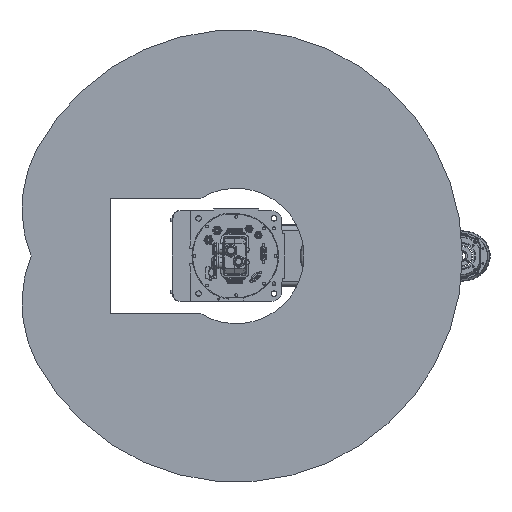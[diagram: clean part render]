
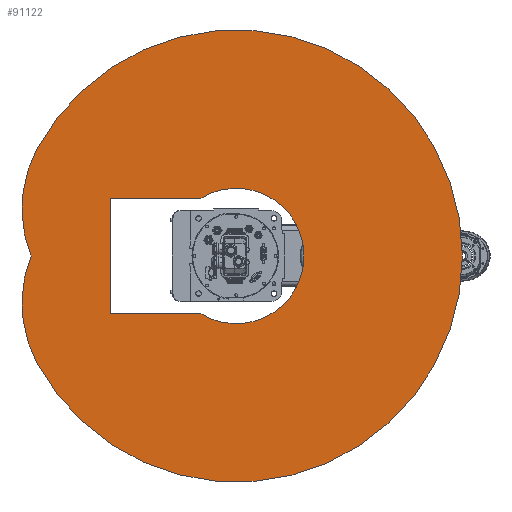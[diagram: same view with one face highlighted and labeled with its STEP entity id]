
A CAD part, front view. The second image highlights one B-rep face of the part: STEP entity #91122.
In plain terms, the highlighted planar face has unit normal (0, -1, 0).
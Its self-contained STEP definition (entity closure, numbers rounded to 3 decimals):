
#2370 = VERTEX_POINT ( 'NONE', #158434 ) ;
#2820 = CARTESIAN_POINT ( 'NONE',  ( 0., 0., 0. ) ) ;
#4275 = DIRECTION ( 'NONE',  ( 0., 1., 0. ) ) ;
#5259 = VECTOR ( 'NONE', #153530, 1000. ) ;
#5303 = CARTESIAN_POINT ( 'NONE',  ( -115., 0., 250. ) ) ;
#6139 = LINE ( 'NONE', #5303, #109820 ) ;
#6924 = AXIS2_PLACEMENT_3D ( 'NONE', #129043, #52920, #118769 ) ;
#8532 = CIRCLE ( 'NONE', #49675, 250. ) ;
#9674 = VERTEX_POINT ( 'NONE', #141880 ) ;
#13364 = DIRECTION ( 'NONE',  ( 1., 0., 0. ) ) ;
#17467 = CIRCLE ( 'NONE', #96697, 134.76 ) ;
#22671 = VERTEX_POINT ( 'NONE', #30373 ) ;
#25147 = ORIENTED_EDGE ( 'NONE', *, *, #75864, .F. ) ;
#25415 = DIRECTION ( 'NONE',  ( 0., 1., 0. ) ) ;
#27335 = EDGE_CURVE ( 'NONE', #22671, #152429, #105547, .T. ) ;
#30010 = DIRECTION ( 'NONE',  ( 1., 0., 0. ) ) ;
#30373 = CARTESIAN_POINT ( 'NONE',  ( 115., 0., 250. ) ) ;
#31054 = DIRECTION ( 'NONE',  ( 1., 0., 0. ) ) ;
#31696 = CARTESIAN_POINT ( 'NONE',  ( 0., 0., 0. ) ) ;
#33573 = CARTESIAN_POINT ( 'NONE',  ( 46.947, 0., 88.295 ) ) ;
#34035 = EDGE_CURVE ( 'NONE', #121136, #126770, #8532, .T. ) ;
#35544 = CIRCLE ( 'NONE', #43736, 134.76 ) ;
#36612 = CARTESIAN_POINT ( 'NONE',  ( 0., 0., -450. ) ) ;
#36910 = ORIENTED_EDGE ( 'NONE', *, *, #27335, .T. ) ;
#39215 = AXIS2_PLACEMENT_3D ( 'NONE', #2820, #78184, #132047 ) ;
#39706 = DIRECTION ( 'NONE',  ( 1., 0., 0. ) ) ;
#40809 = EDGE_LOOP ( 'NONE', ( #146854, #106379, #166323, #25147 ) ) ;
#42395 = VERTEX_POINT ( 'NONE', #100350 ) ;
#43736 = AXIS2_PLACEMENT_3D ( 'NONE', #31696, #4275, #30010 ) ;
#46229 = DIRECTION ( 'NONE',  ( 1., 0., 0. ) ) ;
#49675 = AXIS2_PLACEMENT_3D ( 'NONE', #124885, #163297, #46229 ) ;
#52920 = DIRECTION ( 'NONE',  ( 0., 1., 0. ) ) ;
#54770 = EDGE_CURVE ( 'NONE', #9674, #42395, #35544, .T. ) ;
#56056 = ORIENTED_EDGE ( 'NONE', *, *, #94611, .T. ) ;
#66968 = CARTESIAN_POINT ( 'NONE',  ( 115., 0., 250. ) ) ;
#74697 = CARTESIAN_POINT ( 'NONE',  ( 115., 0., 70.251 ) ) ;
#75864 = EDGE_CURVE ( 'NONE', #2370, #107344, #102873, .T. ) ;
#78184 = DIRECTION ( 'NONE',  ( 0., 1., 0. ) ) ;
#79856 = CARTESIAN_POINT ( 'NONE',  ( 0., 0., 0. ) ) ;
#83980 = VECTOR ( 'NONE', #119160, 1000. ) ;
#86919 = CARTESIAN_POINT ( 'NONE',  ( -115., 0., 250. ) ) ;
#89105 = ORIENTED_EDGE ( 'NONE', *, *, #54770, .T. ) ;
#91122 = ADVANCED_FACE ( 'NONE', ( #97729, #148113 ), #149787, .F. ) ;
#91963 = AXIS2_PLACEMENT_3D ( 'NONE', #79856, #147305, #39706 ) ;
#94611 = EDGE_CURVE ( 'NONE', #152429, #9674, #17467, .T. ) ;
#96697 = AXIS2_PLACEMENT_3D ( 'NONE', #130578, #25415, #13364 ) ;
#97729 = FACE_OUTER_BOUND ( 'NONE', #40809, .T. ) ;
#100350 = CARTESIAN_POINT ( 'NONE',  ( -115., 0., 70.251 ) ) ;
#101139 = AXIS2_PLACEMENT_3D ( 'NONE', #33573, #124222, #31054 ) ;
#102873 = CIRCLE ( 'NONE', #91963, 450. ) ;
#105547 = LINE ( 'NONE', #66968, #83980 ) ;
#105891 = EDGE_CURVE ( 'NONE', #126770, #2370, #110801, .T. ) ;
#106379 = ORIENTED_EDGE ( 'NONE', *, *, #34035, .F. ) ;
#107344 = VERTEX_POINT ( 'NONE', #36612 ) ;
#109820 = VECTOR ( 'NONE', #112264, 1000. ) ;
#110801 = CIRCLE ( 'NONE', #6924, 250. ) ;
#112264 = DIRECTION ( 'NONE',  ( 1., 0., 0. ) ) ;
#118769 = DIRECTION ( 'NONE',  ( 1., 0., 0. ) ) ;
#119160 = DIRECTION ( 'NONE',  ( 0., 0., -1. ) ) ;
#121136 = VERTEX_POINT ( 'NONE', #150133 ) ;
#121959 = VERTEX_POINT ( 'NONE', #86919 ) ;
#123820 = EDGE_CURVE ( 'NONE', #121959, #22671, #6139, .T. ) ;
#124222 = DIRECTION ( 'NONE',  ( 0., 1., 0. ) ) ;
#124885 = CARTESIAN_POINT ( 'NONE',  ( -93.894, 0., 176.59 ) ) ;
#126770 = VERTEX_POINT ( 'NONE', #133938 ) ;
#129043 = CARTESIAN_POINT ( 'NONE',  ( 93.894, 0., 176.59 ) ) ;
#130510 = CARTESIAN_POINT ( 'NONE',  ( -115., 0., 0. ) ) ;
#130578 = CARTESIAN_POINT ( 'NONE',  ( 0., 0., 0. ) ) ;
#132047 = DIRECTION ( 'NONE',  ( 1., 0., 0. ) ) ;
#133806 = EDGE_CURVE ( 'NONE', #42395, #121959, #168068, .T. ) ;
#133938 = CARTESIAN_POINT ( 'NONE',  ( 0., 0., 408.287 ) ) ;
#135721 = ORIENTED_EDGE ( 'NONE', *, *, #133806, .T. ) ;
#141880 = CARTESIAN_POINT ( 'NONE',  ( 0., 0., -134.76 ) ) ;
#146854 = ORIENTED_EDGE ( 'NONE', *, *, #105891, .F. ) ;
#147305 = DIRECTION ( 'NONE',  ( 0., 1., 0. ) ) ;
#148113 = FACE_BOUND ( 'NONE', #160560, .T. ) ;
#149787 = PLANE ( 'NONE',  #101139 ) ;
#150133 = CARTESIAN_POINT ( 'NONE',  ( -211.262, 0., 397.326 ) ) ;
#152429 = VERTEX_POINT ( 'NONE', #74697 ) ;
#153530 = DIRECTION ( 'NONE',  ( 0., 0., 1. ) ) ;
#153839 = CIRCLE ( 'NONE', #39215, 450. ) ;
#157778 = ORIENTED_EDGE ( 'NONE', *, *, #123820, .T. ) ;
#158434 = CARTESIAN_POINT ( 'NONE',  ( 211.262, 0., 397.326 ) ) ;
#160560 = EDGE_LOOP ( 'NONE', ( #135721, #157778, #36910, #56056, #89105 ) ) ;
#163297 = DIRECTION ( 'NONE',  ( 0., 1., 0. ) ) ;
#166323 = ORIENTED_EDGE ( 'NONE', *, *, #168414, .F. ) ;
#168068 = LINE ( 'NONE', #130510, #5259 ) ;
#168414 = EDGE_CURVE ( 'NONE', #107344, #121136, #153839, .T. ) ;
